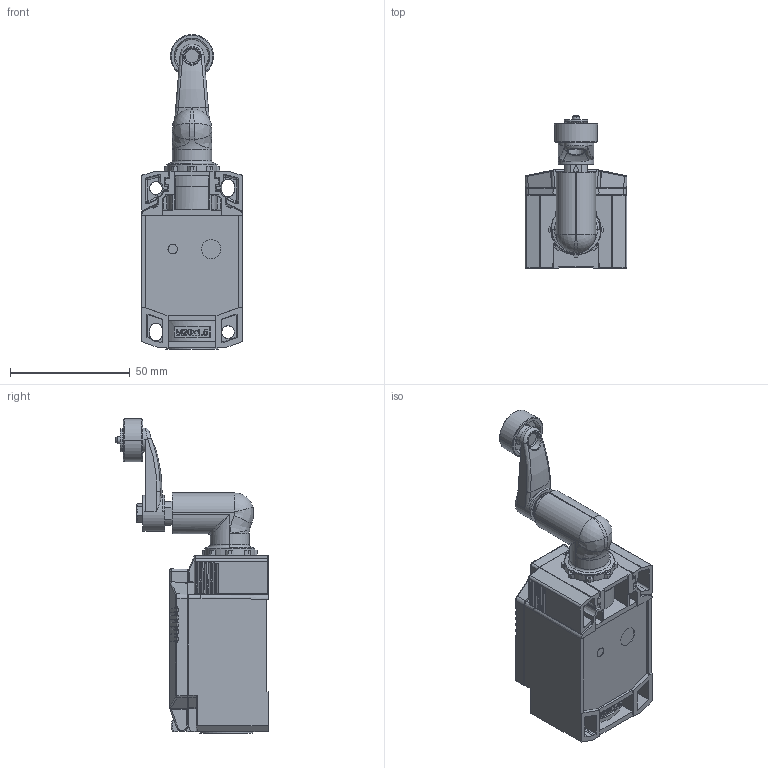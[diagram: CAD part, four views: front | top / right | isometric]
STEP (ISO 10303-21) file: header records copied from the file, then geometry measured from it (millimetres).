
FILE_DESCRIPTION((''),'2;1');
FILE_NAME('6081000066','2025-07-15T14:15:23',('Johann.Tissen'),(''),'CREO PARAMETRIC BY PTC INC, 2022124','CREO PARAMETRIC BY PTC INC, 2022124','');
FILE_SCHEMA(('AUTOMOTIVE_DESIGN { 1 0 10303 214 1 1 1 1 }'));
Products named in the file (1): 6081000066
Bounding box: 42.51 x 63.5 x 131.22 mm (x, y, z)
Volume: 113058 mm3; surface area: 35280.7 mm2
Topology: 1 solids, 1 shells, 2257 faces, 6084 edges, 3858 vertices
Faces by surface type: plane 1067, cylinder 601, bspline 250, cone 165, torus 75, extrusion 64, sphere 35
Entity records: 91521 total; most frequent: CARTESIAN_POINT 37609, ORIENTED_EDGE 12168, DIRECTION 9738, EDGE_CURVE 6084, VERTEX_POINT 3858, AXIS2_PLACEMENT_3D 3275, VECTOR 3185, LINE 3121
